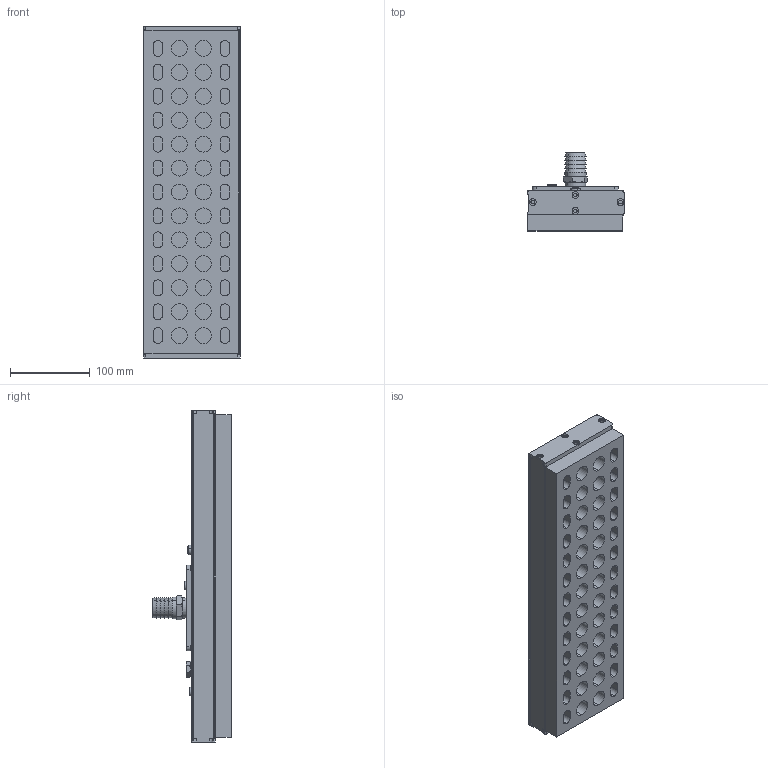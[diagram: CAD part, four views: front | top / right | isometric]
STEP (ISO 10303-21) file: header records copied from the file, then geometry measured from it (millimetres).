
FILE_DESCRIPTION (( 'STEP AP214' ), '1' );
FILE_NAME ('310 400 017.STEP', '2018-01-10T08:08:48', ( '' ), ( '' ), 'SwSTEP 2.0', 'SolidWorks 2017', '' );
FILE_SCHEMA (( 'AUTOMOTIVE_DESIGN' ));
Length unit declared in the file: millimetre
Products named in the file (1): 310 400 017
Bounding box: 121.5 x 98.5 x 416 mm (x, y, z)
Volume: 2263844.6 mm3; surface area: 237933.9 mm2
Topology: 1 solids, 2 shells, 715 faces, 1684 edges, 1068 vertices
Faces by surface type: cylinder 316, plane 263, torus 86, cone 40, bspline 6, sphere 4
Entity records: 29007 total; most frequent: CARTESIAN_POINT 4042, DIRECTION 3906, ORIENTED_EDGE 3348, EDGE_CURVE 1674, AXIS2_PLACEMENT_3D 1566, VERTEX_POINT 1062, CIRCLE 856, EDGE_LOOP 816
